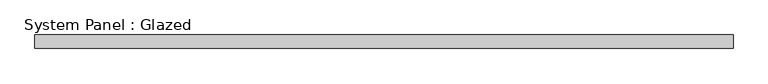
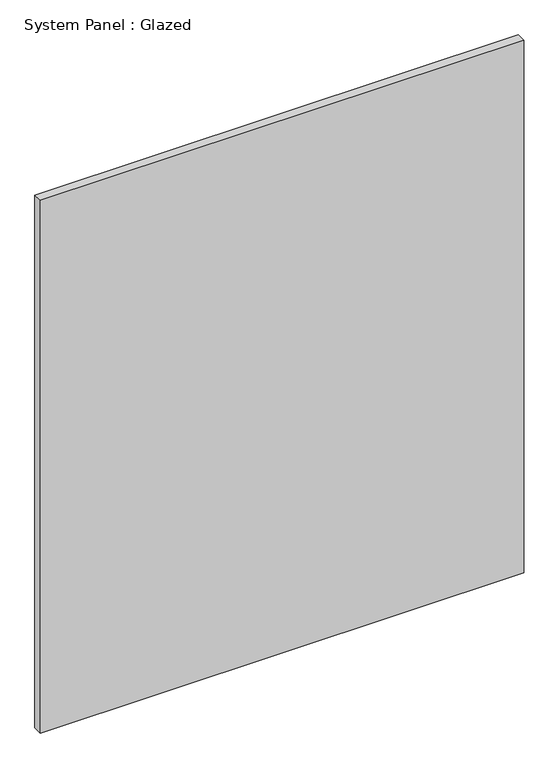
"""IFC4 building model written with IfcOpenShell, lengths in millimetres: plate geometry, System Panel : Glazed."""

from ifc_helpers import new_model, si_unit, origin, origin_with_axes, place, context, project, spatial, polyline, outline, extrude, source, transform, mapped, element, save


def system_panel_glazed_41de1ca9(model_context):
    return source(origin(), model_context, "Body", "SweptSolid", [
        extrude(outline(polyline([(654.231315, 19.05), (-654.231315, 19.05), (-654.231315, 44.45), (654.231315, 44.45), (654.231315, 19.05)])), origin_with_axes(), (0.0, 0.0, 1.0), 1524.0),
    ])


if __name__ == "__main__":
    model = new_model("IFC4")
    model_context = context("Model", 3, world=origin())
    ifc_project = project(units=[si_unit("LENGTHUNIT", "METRE", prefix="MILLI")], contexts=[model_context])
    site = spatial("IfcSite", under=ifc_project)
    building = spatial("IfcBuilding", under=site)
    placement = place(None, origin())
    system_panel_glazed_shape = system_panel_glazed_41de1ca9(model_context)
    element("IfcPlate", 1, ObjectType="System Panel : Glazed", at=placement, inside=building, context=model_context, shape_type="MappedRepresentation", body=[
        mapped(system_panel_glazed_shape, transform((0.0, 0.0, 0.0), x_axis=(1.0, 0.0, 0.0), y_axis=(0.0, 1.0, 0.0), z_axis=(0.0, 0.0, 1.0))),
    ])
    save(model, "model.ifc")
